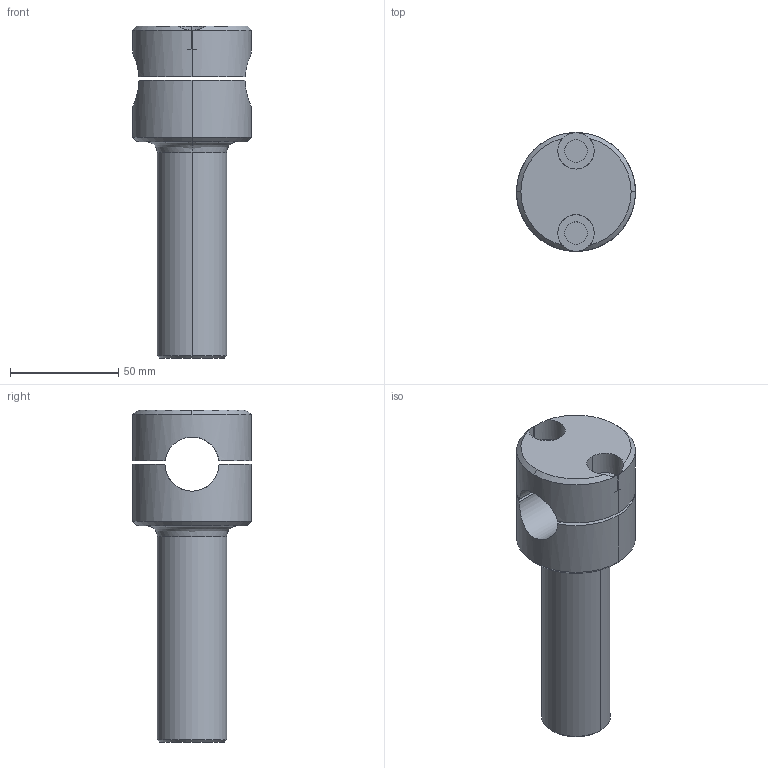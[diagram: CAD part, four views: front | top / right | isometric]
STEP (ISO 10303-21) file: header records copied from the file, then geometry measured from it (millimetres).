
FILE_DESCRIPTION( (''), '2;1');
FILE_NAME ('SY-2080-02B_THB-2532.stp','2022-04-09T08:31:39',(''),(''),'spGate 18.9.3 (****-****-****-****)','','');
FILE_SCHEMA (('AUTOMOTIVE_DESIGN'));
Length unit declared in the file: millimetre
Products named in the file (3): Assembly; SY-2080-02B_THB-2532-prt0; SY-2080-02B_THB-2532-prt1
Assembly tree (2 placements, depth 2):
  Assembly
    SY-2080-02B_THB-2532-prt0
    SY-2080-02B_THB-2532-prt1
Bounding box: 55 x 55 x 153.5 mm (x, y, z)
Volume: 167713.9 mm3; surface area: 31642.1 mm2
Topology: 2 solids, 2 shells, 39 faces, 90 edges, 58 vertices
Faces by surface type: cylinder 20, plane 11, bspline 8
Entity records: 2208 total; most frequent: CARTESIAN_POINT 559, DIRECTION 182, ORIENTED_EDGE 180, COLOUR_RGB 131, PRESENTATION_STYLE_ASSIGNMENT 131, STYLED_ITEM 131, EDGE_CURVE 90, DRAUGHTING_PRE_DEFINED_CURVE_FONT 90
